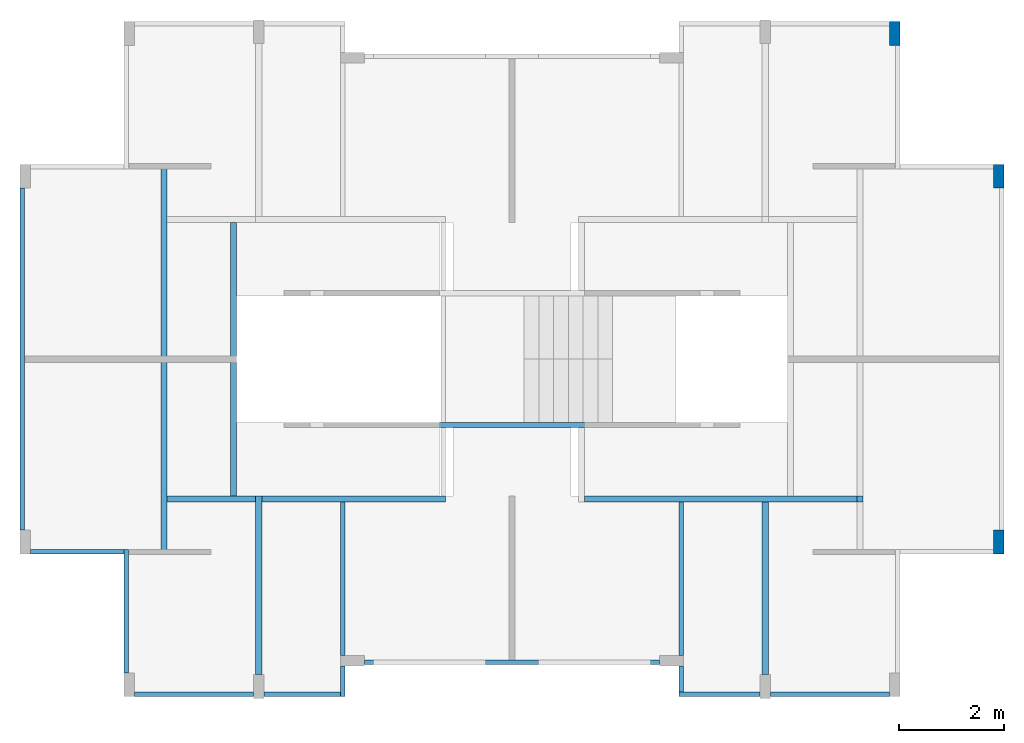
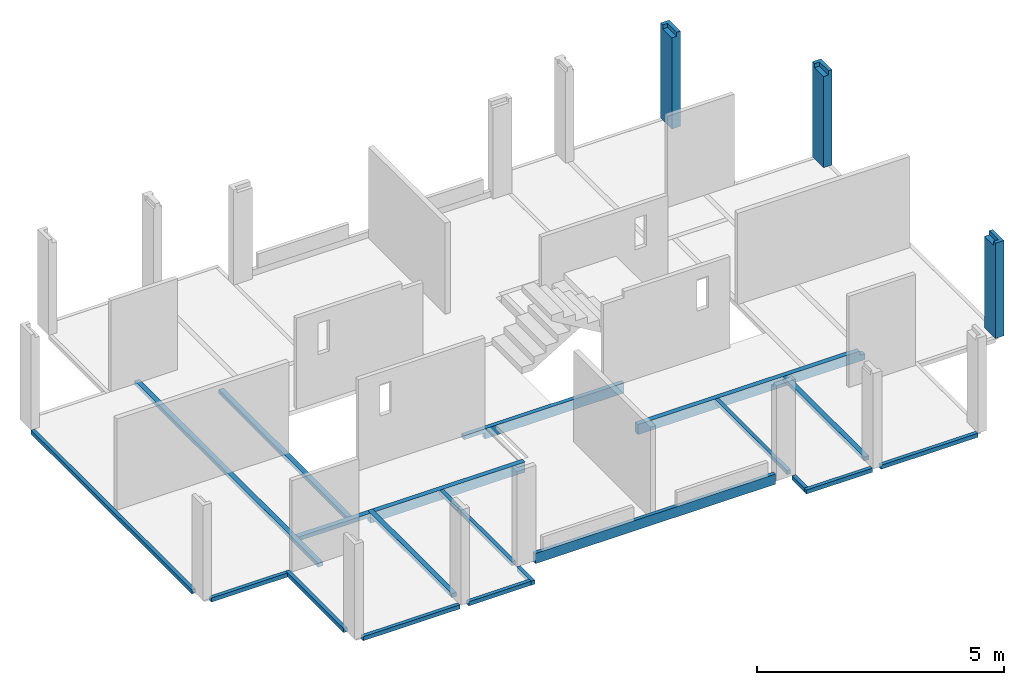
# One storey, part 1 of 6: 16 beams, 3 columns.
"""IFC4 building model written with IfcOpenShell, lengths in metres."""

from ifc_helpers import new_model, entity, si_unit, converted_unit, derived_unit, direction, frame, origin, place, context, subcontext, project, spatial, indexed_curve, outline, extrude, polygons, source, transform, mapped, material, type_object, type_shapes, element, save


model = new_model("IFC4")

# Units and contexts
model_context = context("Model", 3, precision=1e-05, world=origin(), true_north=direction((6.123031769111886e-17, 1.0)))
body_context = subcontext(model_context, "Body", "Model", "MODEL_VIEW")
ifc_project = project(units=[si_unit("LENGTHUNIT", "METRE"), si_unit("AREAUNIT", "SQUARE_METRE"), si_unit("VOLUMEUNIT", "CUBIC_METRE"), converted_unit("PLANEANGLEUNIT", "DEGREE", entity("IfcRatioMeasure", 0.017453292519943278), si_unit("PLANEANGLEUNIT", "RADIAN"), dimensions=[0, 0, 0, 0, 0, 0, 0]), si_unit("MASSUNIT", "GRAM", prefix="KILO"), derived_unit("MASSDENSITYUNIT", [(si_unit("MASSUNIT", "GRAM", prefix="KILO"), 1), (si_unit("LENGTHUNIT", "METRE"), -3)]), derived_unit("IONCONCENTRATIONUNIT", [(si_unit("MASSUNIT", "GRAM", prefix="KILO"), 1), (si_unit("LENGTHUNIT", "METRE"), -3)]), derived_unit("MOMENTOFINERTIAUNIT", [(si_unit("LENGTHUNIT", "METRE"), 4)]), si_unit("TIMEUNIT", "SECOND"), si_unit("FREQUENCYUNIT", "HERTZ"), si_unit("THERMODYNAMICTEMPERATUREUNIT", "DEGREE_CELSIUS"), derived_unit("THERMALTRANSMITTANCEUNIT", [(si_unit("MASSUNIT", "GRAM", prefix="KILO"), 1), (si_unit("THERMODYNAMICTEMPERATUREUNIT", "KELVIN"), -1), (si_unit("TIMEUNIT", "SECOND"), -3)]), derived_unit("THERMALCONDUCTANCEUNIT", [(si_unit("MASSUNIT", "GRAM", prefix="KILO"), 1), (si_unit("THERMODYNAMICTEMPERATUREUNIT", "KELVIN"), -1), (si_unit("TIMEUNIT", "SECOND"), -3), (si_unit("LENGTHUNIT", "METRE"), 1)]), derived_unit("VOLUMETRICFLOWRATEUNIT", [(si_unit("LENGTHUNIT", "METRE"), 3), (si_unit("TIMEUNIT", "SECOND"), -1)]), derived_unit("MASSFLOWRATEUNIT", [(si_unit("MASSUNIT", "GRAM", prefix="KILO"), 1), (si_unit("TIMEUNIT", "SECOND"), -1)]), derived_unit("ROTATIONALFREQUENCYUNIT", [(si_unit("TIMEUNIT", "SECOND"), -1)]), si_unit("ELECTRICCURRENTUNIT", "AMPERE"), si_unit("ELECTRICVOLTAGEUNIT", "VOLT"), si_unit("POWERUNIT", "WATT"), si_unit("FORCEUNIT", "NEWTON", prefix="KILO"), si_unit("ILLUMINANCEUNIT", "LUX"), si_unit("LUMINOUSFLUXUNIT", "LUMEN"), si_unit("LUMINOUSINTENSITYUNIT", "CANDELA"), derived_unit("USERDEFINED", [(si_unit("MASSUNIT", "GRAM", prefix="KILO"), -1), (si_unit("LENGTHUNIT", "METRE"), -2), (si_unit("TIMEUNIT", "SECOND"), 3), (si_unit("LUMINOUSFLUXUNIT", "LUMEN"), 1)]), derived_unit("USERDEFINED", [(si_unit("MASSUNIT", "GRAM", prefix="KILO"), 1), (si_unit("TIMEUNIT", "SECOND"), -3), (si_unit("LENGTHUNIT", "METRE"), 3), (si_unit("ELECTRICCURRENTUNIT", "AMPERE"), -2)]), derived_unit("SOUNDPOWERUNIT", [(si_unit("MASSUNIT", "GRAM", prefix="KILO"), 1), (si_unit("TIMEUNIT", "SECOND"), -3), (si_unit("LENGTHUNIT", "METRE"), 2)]), derived_unit("SOUNDPRESSUREUNIT", [(si_unit("MASSUNIT", "GRAM", prefix="KILO"), 1), (si_unit("LENGTHUNIT", "METRE"), -1), (si_unit("TIMEUNIT", "SECOND"), -2)]), derived_unit("LINEARVELOCITYUNIT", [(si_unit("LENGTHUNIT", "METRE"), 1), (si_unit("TIMEUNIT", "SECOND"), -1)]), si_unit("PRESSUREUNIT", "PASCAL"), derived_unit("USERDEFINED", [(si_unit("MASSUNIT", "GRAM", prefix="KILO"), 1), (si_unit("LENGTHUNIT", "METRE"), -2), (si_unit("TIMEUNIT", "SECOND"), -2)]), derived_unit("LINEARFORCEUNIT", [(si_unit("MASSUNIT", "GRAM", prefix="KILO"), 1), (si_unit("TIMEUNIT", "SECOND"), -2)]), derived_unit("PLANARFORCEUNIT", [(si_unit("MASSUNIT", "GRAM", prefix="KILO"), 1), (si_unit("LENGTHUNIT", "METRE"), -1), (si_unit("TIMEUNIT", "SECOND"), -2)]), derived_unit("SPECIFICHEATCAPACITYUNIT", [(si_unit("THERMODYNAMICTEMPERATUREUNIT", "KELVIN"), -1), (si_unit("LENGTHUNIT", "METRE"), 2), (si_unit("TIMEUNIT", "SECOND"), -2)]), derived_unit("HEATINGVALUEUNIT", [(si_unit("LENGTHUNIT", "METRE"), 2), (si_unit("TIMEUNIT", "SECOND"), -2)]), derived_unit("VAPORPERMEABILITYUNIT", [(si_unit("LENGTHUNIT", "METRE"), -1), (si_unit("TIMEUNIT", "SECOND"), 1)]), derived_unit("DYNAMICVISCOSITYUNIT", [(si_unit("MASSUNIT", "GRAM", prefix="KILO"), 1), (si_unit("TIMEUNIT", "SECOND"), -1), (si_unit("LENGTHUNIT", "METRE"), -1)]), derived_unit("THERMALEXPANSIONCOEFFICIENTUNIT", [(si_unit("THERMODYNAMICTEMPERATUREUNIT", "KELVIN"), -1)]), derived_unit("MODULUSOFELASTICITYUNIT", [(si_unit("MASSUNIT", "GRAM", prefix="KILO"), 1), (si_unit("LENGTHUNIT", "METRE"), -1), (si_unit("TIMEUNIT", "SECOND"), -2)]), derived_unit("ISOTHERMALMOISTURECAPACITYUNIT", [(si_unit("LENGTHUNIT", "METRE"), 3), (si_unit("MASSUNIT", "GRAM", prefix="KILO"), -1)]), derived_unit("MOISTUREDIFFUSIVITYUNIT", [(si_unit("TIMEUNIT", "SECOND"), -1), (si_unit("LENGTHUNIT", "METRE"), 2)])], contexts=[model_context])

# Site, building, storey
site_placement = place(None, origin())
site = spatial("IfcSite", under=ifc_project, at=site_placement, Name="Default", CompositionType="ELEMENT")
building_placement = place(site_placement, origin())
building = spatial("IfcBuilding", under=site, at=building_placement, Name="Las nubes", CompositionType="ELEMENT")
storey_placement = place(building_placement, frame((0.0, 0.0, 7.050000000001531)))
storey = spatial("IfcBuildingStorey", under=building, at=storey_placement, Name="PISO 4", CompositionType="ELEMENT", Elevation=7.050000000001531)

# Columns
ifc_material_1 = material(Name="Concrete, Cast-in-Place gray", Category="Materials")
column_type_1 = type_object("IfcColumnType", Name="M_Concrete-Rectangular-Column:300 x 450mm", PredefinedType="COLUMN", material=ifc_material_1)
shared_shape_1 = source(origin(), body_context, "Body", "Tessellation", [
    polygons([(-2.1657342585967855e-15, 5.414335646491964e-16, 0.0), (-2.1657342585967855e-15, 0.45000000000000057, 0.0), (0.19999999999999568, 0.45000000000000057, 0.0), (0.19999999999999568, 5.414335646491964e-16, 0.0), (-2.1657342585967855e-15, 5.414335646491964e-16, 2.250000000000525), (-2.1657342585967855e-15, 0.36499999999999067, 2.250000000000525), (-2.1657342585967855e-15, 0.36499999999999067, 2.3500000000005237), (-2.1657342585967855e-15, 0.45000000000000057, 2.3500000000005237), (0.19999999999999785, 5.414335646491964e-16, 2.250000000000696), (0.19999999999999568, 5.414335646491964e-16, 2.3500000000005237), (0.11499999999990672, 5.414335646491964e-16, 2.3500000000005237), (0.11499999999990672, 5.414335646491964e-16, 2.250000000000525), (0.19999999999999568, 0.45000000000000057, 2.3500000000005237), (0.11499999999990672, 0.36499999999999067, 2.3500000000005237), (0.11499999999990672, 0.36499999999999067, 2.250000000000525)], [[[1, 2, 3, 4]], [[2, 1, 5, 6, 7, 8]], [[1, 4, 9, 10, 11, 12, 5]], [[4, 3, 13, 10, 9]], [[3, 2, 8, 13]], [[10, 13, 8, 7, 14, 11]], [[12, 15, 6, 5]], [[14, 15, 12, 11]], [[15, 14, 7, 6]]], closed=True),
])
type_shapes(column_type_1, [shared_shape_1])
column_1_placement = place(storey_placement, frame((18.472500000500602, -3.175000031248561, 0.0)))
element("IfcColumn", 1, at=column_1_placement, inside=storey, type_object=column_type_1, material=ifc_material_1, Name="M_Concrete-Rectangular-Column:300 x 450mm", ObjectType="M_Concrete-Rectangular-Column:300 x 450mm", PredefinedType="COLUMN", context=body_context, shape_type="MappedRepresentation", body=[
    mapped(shared_shape_1, transform((0.0, 0.0, 0.0), scale=1.0)),
])
column_type_2 = type_object("IfcColumnType", Name="M_Concrete-Rectangular-Column:300 x 450mm", PredefinedType="COLUMN", material=ifc_material_1)
shared_shape_2 = source(origin(), body_context, "Body", "Tessellation", [
    polygons([(0.0, 0.0, 0.0), (0.0, 0.45, 0.0), (0.2, 0.45, 0.0), (0.2, 0.0, 0.0), (0.0, 0.0, 2.250000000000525), (0.0, 0.3649999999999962, 2.250000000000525), (0.0, 0.36499999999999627, 2.3500000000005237), (0.0, 0.45, 2.3500000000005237), (0.2, 0.0, 2.250000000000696), (0.2, 0.0, 2.3500000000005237), (0.11499999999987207, 0.0, 2.3500000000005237), (0.11499999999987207, 0.0, 2.250000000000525), (0.2, 0.45, 2.3500000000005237), (0.11499999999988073, 0.3649999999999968, 2.3500000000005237), (0.11499999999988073, 0.3649999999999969, 2.250000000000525)], [[[1, 2, 3, 4]], [[2, 1, 5, 6, 7, 8]], [[1, 4, 9, 10, 11, 12, 5]], [[4, 3, 13, 10, 9]], [[3, 2, 8, 13]], [[10, 13, 8, 7, 14, 11]], [[15, 6, 5, 12]], [[15, 14, 7, 6]], [[14, 15, 12, 11]]], closed=True),
])
type_shapes(column_type_2, [shared_shape_2])
column_2_placement = place(storey_placement, frame((16.497500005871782, -0.46000002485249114, 0.0)))
element("IfcColumn", 2, at=column_2_placement, inside=storey, type_object=column_type_2, material=ifc_material_1, Name="M_Concrete-Rectangular-Column:300 x 450mm", ObjectType="M_Concrete-Rectangular-Column:300 x 450mm", PredefinedType="COLUMN", context=body_context, shape_type="MappedRepresentation", body=[
    mapped(shared_shape_2, transform((0.0, 0.0, 0.0), scale=1.0)),
])
column_type_3 = type_object("IfcColumnType", Name="M_Concrete-Rectangular-Column:300 x 450mm", PredefinedType="COLUMN", material=ifc_material_1)
shared_shape_3 = source(origin(), body_context, "Body", "Tessellation", [
    polygons([(2.1657342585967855e-15, 2.1657342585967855e-15, 0.0), (6.497202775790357e-15, 0.4500000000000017, 0.0), (0.20000000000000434, 0.45000000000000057, 0.0), (0.20000000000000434, 0.0, 0.0), (2.1657342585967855e-15, 2.1657342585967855e-15, 2.3500000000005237), (2.1657342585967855e-15, 0.08500000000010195, 2.3500000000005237), (2.1657342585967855e-15, 0.08500000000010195, 2.250000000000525), (6.497202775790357e-15, 0.4500000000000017, 2.250000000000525), (0.11499999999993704, 0.4500000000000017, 2.250000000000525), (0.11499999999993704, 0.4500000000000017, 2.3500000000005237), (0.2000000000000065, 0.4499999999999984, 2.3500000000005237), (0.2000000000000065, 0.45000000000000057, 2.250000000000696), (0.20000000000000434, 0.0, 2.3500000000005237), (0.11499999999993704, 0.08500000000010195, 2.3500000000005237), (0.11499999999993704, 0.08500000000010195, 2.250000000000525)], [[[1, 2, 3, 4]], [[2, 1, 5, 6, 7, 8]], [[3, 2, 8, 9, 10, 11, 12]], [[4, 3, 12, 11, 13]], [[1, 4, 13, 5]], [[13, 11, 10, 14, 6, 5]], [[7, 15, 9, 8]], [[14, 15, 7, 6]], [[15, 14, 10, 9]]], closed=True),
])
type_shapes(column_type_3, [shared_shape_3])
column_3_placement = place(storey_placement, frame((18.472500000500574, -10.125000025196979, 0.0)))
element("IfcColumn", 3, at=column_3_placement, inside=storey, type_object=column_type_3, material=ifc_material_1, Name="M_Concrete-Rectangular-Column:300 x 450mm", ObjectType="M_Concrete-Rectangular-Column:300 x 450mm", PredefinedType="COLUMN", context=body_context, shape_type="MappedRepresentation", body=[
    mapped(shared_shape_3, transform((0.0, 0.0, 0.0), scale=1.0)),
])

# Beams
ifc_material_2 = material(Name="Concrete, Cast In Situ", Category="Materials")
beam_type_1 = type_object("IfcBeamType", Name="M_Concrete-Rectangular Beam:(0.085x0.25)", PredefinedType="BEAM", material=ifc_material_2)
shared_shape_4 = source(origin(), body_context, "Body", "SweptSolid", [
    extrude(outline(indexed_curve([(-0.12500000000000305, -0.04249999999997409), (0.12499999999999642, -0.04250000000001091), (0.12500000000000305, 0.04249999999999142), (-0.12499999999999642, 0.042500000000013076), (-0.12500000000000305, -0.04249999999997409)], self_intersect=False)), frame((6.517499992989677, -12.18250002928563, 7.075000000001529), z_axis=(1.0, 0.0, 0.0), x_axis=(0.0, 0.0, -1.0)), (0.0, 0.0, 1.0), 5.6100000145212),
])
type_shapes(beam_type_1, [shared_shape_4])
beam_1_placement = place(storey_placement, frame((0.0, 0.0, -7.050000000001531)))
element("IfcBeam", 4, at=beam_1_placement, inside=storey, type_object=beam_type_1, material=ifc_material_2, Name="M_Concrete-Rectangular Beam:(0.085x0.25)", ObjectType="M_Concrete-Rectangular Beam:(0.085x0.25)", PredefinedType="BEAM", context=body_context, shape_type="MappedRepresentation", body=[
    mapped(shared_shape_4, transform((0.0, 0.0, 0.0), scale=1.0)),
])
ifc_material_3 = material(Name="Concrete - Cast-in-Place Concrete - 35 MPa", Category="Materials")
beam_type_2 = type_object("IfcBeamType", Name="M_Concrete-Rectangular Beam:(0.10x0.25)", PredefinedType="BEAM", material=ifc_material_3)
shared_shape_5 = source(origin(), body_context, "Body", "SweptSolid", [
    extrude(outline(indexed_curve([(-1.7597499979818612, -0.10250000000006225), (-1.269749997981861, -0.10250000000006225), (-1.2647499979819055, -0.10250000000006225), (-1.234749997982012, -0.10250000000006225), (-1.1497499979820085, -0.10250000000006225), (-1.0097500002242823, -0.10250000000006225), (1.2302499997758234, -0.10250000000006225), (1.3702499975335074, -0.10250000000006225), (1.4852499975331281, -0.10250000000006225), (1.9802499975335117, -0.10250000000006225), (1.9802499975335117, -0.002499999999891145), (1.9802499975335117, 0.14749999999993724), (1.4902499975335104, 0.14749999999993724), (1.4852499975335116, 0.14749999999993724), (1.3702499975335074, 0.14749999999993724), (-1.1497499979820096, 0.14749999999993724), (-1.234749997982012, 0.14749999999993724), (-1.269749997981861, 0.14749999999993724), (-1.269749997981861, -0.0024999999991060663), (-1.7597499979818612, -0.002499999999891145), (-1.7597499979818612, -0.10250000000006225)], self_intersect=False)), frame((9.212250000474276, -7.725000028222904, 6.94750000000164), z_axis=(0.0, 1.0, 0.0), x_axis=(1.0, 0.0, 0.0)), (0.0, 0.0, 1.0), 0.10000000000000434),
])
type_shapes(beam_type_2, [shared_shape_5])
beam_2_placement = place(storey_placement, frame((0.0, 0.0, -7.050000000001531)))
element("IfcBeam", 5, at=beam_2_placement, inside=storey, type_object=beam_type_2, material=ifc_material_3, Name="M_Concrete-Rectangular Beam:(0.10x0.25)", ObjectType="M_Concrete-Rectangular Beam:(0.10x0.25)", PredefinedType="BEAM", context=body_context, shape_type="MappedRepresentation", body=[
    mapped(shared_shape_5, transform((0.0, 0.0, 0.0), scale=1.0)),
])
beam_type_3 = type_object("IfcBeamType", Name="M_Concrete-Rectangular Beam:(0.085x0.10)", PredefinedType="BEAM", material=ifc_material_2)
shared_shape_6 = source(origin(), body_context, "Body", "SweptSolid", [
    extrude(outline(indexed_curve([(-0.04250000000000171, -0.04999999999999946), (0.04250000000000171, -0.04999999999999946), (0.04250000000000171, 0.050000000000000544), (-0.04250000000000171, 0.050000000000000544), (-0.04250000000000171, -0.04999999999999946)], self_intersect=False)), frame((1.9899999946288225, -12.390000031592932, 7.0), z_axis=(0.0, 1.0, 0.0), x_axis=(-1.0, 0.0, 0.0)), (0.0, 0.0, 1.0), 2.3500051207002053),
])
type_shapes(beam_type_3, [shared_shape_6])
beam_3_placement = place(storey_placement, frame((0.0, 0.0, -7.050000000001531)))
element("IfcBeam", 6, at=beam_3_placement, inside=storey, type_object=beam_type_3, material=ifc_material_2, Name="M_Concrete-Rectangular Beam:(0.085x0.10)", ObjectType="M_Concrete-Rectangular Beam:(0.085x0.10)", PredefinedType="BEAM", context=body_context, shape_type="MappedRepresentation", body=[
    mapped(shared_shape_6, transform((0.0, 0.0, 0.0), scale=1.0)),
])
beam_type_4 = type_object("IfcBeamType", Name="M_Concrete-Rectangular Beam:(0.085x0.10)", PredefinedType="BEAM", material=ifc_material_2)
shared_shape_7 = source(origin(), body_context, "Body", "SweptSolid", [
    extrude(outline(indexed_curve([(-0.05000000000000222, -0.04249999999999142), (0.04999999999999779, -0.042500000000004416), (0.050000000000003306, 0.04249999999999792), (-0.04999999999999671, 0.042500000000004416), (-0.05000000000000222, -0.04249999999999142)], self_intersect=False)), frame((1.9474999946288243, -10.082494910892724, 7.0), z_axis=(-1.0, 0.0, 0.0), x_axis=(0.0, 0.0, -1.0)), (0.0, 0.0, 1.0), 1.7749999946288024),
])
type_shapes(beam_type_4, [shared_shape_7])
beam_4_placement = place(storey_placement, frame((0.0, 0.0, -7.050000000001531)))
element("IfcBeam", 7, at=beam_4_placement, inside=storey, type_object=beam_type_4, material=ifc_material_2, Name="M_Concrete-Rectangular Beam:(0.085x0.10)", ObjectType="M_Concrete-Rectangular Beam:(0.085x0.10)", PredefinedType="BEAM", context=body_context, shape_type="MappedRepresentation", body=[
    mapped(shared_shape_7, transform((0.0, 0.0, 0.0), scale=1.0)),
])
beam_type_5 = type_object("IfcBeamType", Name="M_Concrete-Rectangular Beam:(0.085x0.10)", PredefinedType="BEAM", material=ifc_material_2)
shared_shape_8 = source(origin(), body_context, "Body", "SweptSolid", [
    extrude(outline(indexed_curve([(-0.04250000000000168, -0.04999999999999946), (0.04250000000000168, -0.04999999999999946), (0.0425000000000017, 0.050000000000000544), (-0.04250000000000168, 0.050000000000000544), (-0.04250000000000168, -0.04999999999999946)], self_intersect=False)), frame((0.01500000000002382, -9.674994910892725, 7.0), z_axis=(0.0, 1.0, 0.0), x_axis=(-1.0, 0.0, 0.0)), (0.0, 0.0, 1.0), 6.499994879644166),
])
type_shapes(beam_type_5, [shared_shape_8])
beam_5_placement = place(storey_placement, frame((0.0, 0.0, -7.050000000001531)))
element("IfcBeam", 8, at=beam_5_placement, inside=storey, type_object=beam_type_5, material=ifc_material_2, Name="M_Concrete-Rectangular Beam:(0.085x0.10)", ObjectType="M_Concrete-Rectangular Beam:(0.085x0.10)", PredefinedType="BEAM", context=body_context, shape_type="MappedRepresentation", body=[
    mapped(shared_shape_8, transform((0.0, 0.0, 0.0), scale=1.0)),
])
beam_type_6 = type_object("IfcBeamType", Name="M_Concrete-Rectangular Beam:(0.085x0.10)", PredefinedType="BEAM", material=ifc_material_2)
shared_shape_9 = source(origin(), body_context, "Body", "SweptSolid", [
    extrude(outline(indexed_curve([(-0.05000000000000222, -0.04249999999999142), (0.04999999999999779, -0.042500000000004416), (0.050000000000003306, 0.04249999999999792), (-0.04999999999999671, 0.042500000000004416), (-0.05000000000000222, -0.04249999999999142)], self_intersect=False)), frame((14.235000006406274, -12.797498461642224, 7.0), z_axis=(1.0, 0.0, 0.0), x_axis=(0.0, 0.0, -1.0)), (0.0, 0.0, 1.0), 2.2624999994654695),
    extrude(outline(indexed_curve([(-0.05000000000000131, -0.04249999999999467), (0.0499999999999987, -0.042500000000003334), (0.05000000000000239, 0.042499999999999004), (-0.049999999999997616, 0.042500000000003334), (-0.05000000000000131, -0.04249999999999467)], self_intersect=False)), frame((12.49250000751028, -12.797498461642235, 7.0), z_axis=(1.0, 0.0, 0.0), x_axis=(0.0, 0.0, -1.0)), (0.0, 0.0, 1.0), 1.5424999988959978),
])
type_shapes(beam_type_6, [shared_shape_9])
beam_6_placement = place(storey_placement, frame((0.0, 0.0, -7.050000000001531)))
element("IfcBeam", 9, at=beam_6_placement, inside=storey, type_object=beam_type_6, material=ifc_material_2, Name="M_Concrete-Rectangular Beam:(0.085x0.10)", ObjectType="M_Concrete-Rectangular Beam:(0.085x0.10)", PredefinedType="BEAM", context=body_context, shape_type="MappedRepresentation", body=[
    mapped(shared_shape_9, transform((0.0, 0.0, 0.0), scale=1.0)),
])
beam_type_7 = type_object("IfcBeamType", Name="M_Concrete-Rectangular Beam:(0.115x0.25)", PredefinedType="BEAM", material=ifc_material_2)
shared_shape_10 = source(origin(), body_context, "Body", "SweptSolid", [
    extrude(outline(indexed_curve([(-0.16111111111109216, -1.5972222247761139), (-0.011111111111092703, -1.5972222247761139), (-0.011111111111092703, -1.4822222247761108), (0.08888888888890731, -1.4822222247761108), (0.08888888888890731, 0.01777777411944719), (0.08888888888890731, 0.1027777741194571), (0.08888888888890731, 2.012777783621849), (-0.011111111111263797, 2.012777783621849), (-0.16111111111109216, 2.012777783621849), (-0.16111111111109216, -1.5972222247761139)], self_intersect=False)), frame((6.049722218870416, -9.14000012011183, 6.961111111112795), z_axis=(0.0, 1.0, 0.0), x_axis=(0.0, 0.0, 1.0)), (0.0, 0.0, 1.0), 0.1150000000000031),
])
type_shapes(beam_type_7, [shared_shape_10])
beam_7_placement = place(storey_placement, frame((0.0, 0.0, -7.050000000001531)))
element("IfcBeam", 10, at=beam_7_placement, inside=storey, type_object=beam_type_7, material=ifc_material_2, Name="M_Concrete-Rectangular Beam:(0.115x0.25)", ObjectType="M_Concrete-Rectangular Beam:(0.115x0.25)", PredefinedType="BEAM", context=body_context, shape_type="MappedRepresentation", body=[
    mapped(shared_shape_10, transform((0.0, 0.0, 0.0), scale=1.0)),
])
beam_type_8 = type_object("IfcBeamType", Name="M_Concrete-Rectangular Beam:(0.115x0.25)", PredefinedType="BEAM", material=ifc_material_2)
shared_shape_11 = source(origin(), body_context, "Body", "SweptSolid", [
    extrude(outline(indexed_curve([(-2.1449993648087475, -0.18000000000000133), (3.149999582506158, -0.18000000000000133), (3.149999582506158, 0.06999999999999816), (1.35499957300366, 0.06999999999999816), (1.2699995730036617, 0.06999999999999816), (-0.2300004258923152, 0.06999999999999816), (-0.3450004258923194, 0.06999999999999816), (-2.0299993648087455, 0.06999999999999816), (-2.0299993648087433, -0.030000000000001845), (-2.1449993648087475, -0.030000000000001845), (-2.1449993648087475, -0.18000000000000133)], self_intersect=False)), frame((13.847499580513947, -9.140000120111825, 6.980000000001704), z_axis=(0.0, 1.0, 0.0), x_axis=(-1.0, 0.0, 0.0)), (0.0, 0.0, 1.0), 0.1150000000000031),
])
type_shapes(beam_type_8, [shared_shape_11])
beam_8_placement = place(storey_placement, frame((0.0, 0.0, -7.050000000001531)))
element("IfcBeam", 11, at=beam_8_placement, inside=storey, type_object=beam_type_8, material=ifc_material_2, Name="M_Concrete-Rectangular Beam:(0.115x0.25)", ObjectType="M_Concrete-Rectangular Beam:(0.115x0.25)", PredefinedType="BEAM", context=body_context, shape_type="MappedRepresentation", body=[
    mapped(shared_shape_11, transform((0.0, 0.0, 0.0), scale=1.0)),
])
beam_type_9 = type_object("IfcBeamType", Name="M_Concrete-Rectangular Beam:(0.115x0.10)", PredefinedType="BEAM", material=ifc_material_2)
shared_shape_12 = source(origin(), body_context, "Body", "SweptSolid", [
    extrude(outline(indexed_curve([(-0.05750000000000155, -0.04999999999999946), (0.05750000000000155, -0.04999999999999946), (0.05750000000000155, 0.050000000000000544), (-0.05750000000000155, 0.050000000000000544), (-0.05750000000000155, -0.04999999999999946)], self_intersect=False)), frame((2.710001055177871, -10.140000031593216, 7.0), z_axis=(0.0, 1.0, 0.0), x_axis=(-1.0, 0.0, 0.0)), (0.0, 0.0, 1.0), 7.430000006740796),
])
type_shapes(beam_type_9, [shared_shape_12])
beam_9_placement = place(storey_placement, frame((0.0, 0.0, -7.050000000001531)))
element("IfcBeam", 12, at=beam_9_placement, inside=storey, type_object=beam_type_9, material=ifc_material_2, Name="M_Concrete-Rectangular Beam:(0.115x0.10)", ObjectType="M_Concrete-Rectangular Beam:(0.115x0.10)", PredefinedType="BEAM", context=body_context, shape_type="MappedRepresentation", body=[
    mapped(shared_shape_12, transform((0.0, 0.0, 0.0), scale=1.0)),
])
beam_type_10 = type_object("IfcBeamType", Name="M_Concrete-Rectangular Beam:(0.115x0.10)", PredefinedType="BEAM", material=ifc_material_2)
shared_shape_13 = source(origin(), body_context, "Body", "SweptSolid", [
    extrude(outline(indexed_curve([(-0.05750000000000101, -0.050000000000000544), (0.05750000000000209, -0.04999999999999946), (0.05750000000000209, 0.04999999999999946), (-0.05750000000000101, 0.04999999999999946), (-0.05750000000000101, -0.050000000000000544)], self_intersect=False)), frame((4.509999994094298, -12.42000003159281, 7.0), z_axis=(0.0, 1.0, 0.0), x_axis=(-1.0, 0.0, 0.0)), (0.0, 0.0, 1.0), 3.3950000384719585),
])
type_shapes(beam_type_10, [shared_shape_13])
beam_10_placement = place(storey_placement, frame((0.0, 0.0, -7.050000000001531)))
element("IfcBeam", 13, at=beam_10_placement, inside=storey, type_object=beam_type_10, material=ifc_material_2, Name="M_Concrete-Rectangular Beam:(0.115x0.10)", ObjectType="M_Concrete-Rectangular Beam:(0.115x0.10)", PredefinedType="BEAM", context=body_context, shape_type="MappedRepresentation", body=[
    mapped(shared_shape_13, transform((0.0, 0.0, 0.0), scale=1.0)),
])
beam_type_11 = type_object("IfcBeamType", Name="M_Concrete-Rectangular Beam:(0.115x0.10)", PredefinedType="BEAM", material=ifc_material_2)
shared_shape_14 = source(origin(), body_context, "Body", "SweptSolid", [
    extrude(outline(indexed_curve([(-0.05750000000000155, -0.04999999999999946), (0.05750000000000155, -0.04999999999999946), (0.05750000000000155, 0.050000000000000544), (-0.05750000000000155, 0.050000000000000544), (-0.05750000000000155, -0.04999999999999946)], self_intersect=False)), frame((4.029999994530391, -9.025000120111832, 7.0), z_axis=(0.0, 1.0, 0.0), x_axis=(-1.0, 0.0, 0.0)), (0.0, 0.0, 1.0), 5.200000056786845),
])
type_shapes(beam_type_11, [shared_shape_14])
beam_11_placement = place(storey_placement, frame((0.0, 0.0, -7.050000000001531)))
element("IfcBeam", 14, at=beam_11_placement, inside=storey, type_object=beam_type_11, material=ifc_material_2, Name="M_Concrete-Rectangular Beam:(0.115x0.10)", ObjectType="M_Concrete-Rectangular Beam:(0.115x0.10)", PredefinedType="BEAM", context=body_context, shape_type="MappedRepresentation", body=[
    mapped(shared_shape_14, transform((0.0, 0.0, 0.0), scale=1.0)),
])
beam_type_12 = type_object("IfcBeamType", Name="M_Concrete-Rectangular Beam:(0.115x0.10)", PredefinedType="BEAM", material=ifc_material_2)
shared_shape_15 = source(origin(), body_context, "Body", "SweptSolid", [
    extrude(outline(indexed_curve([(-0.05000000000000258, -0.057499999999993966), (0.049999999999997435, -0.05750000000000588), (0.05000000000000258, 0.0574999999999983), (-0.049999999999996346, 0.057500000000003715), (-0.05000000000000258, -0.057499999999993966)], self_intersect=False)), frame((4.4524999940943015, -9.082499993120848, 7.0), z_axis=(-1.0, 0.0, 0.0), x_axis=(0.0, 0.0, -1.0)), (0.0, 0.0, 1.0), 1.6849989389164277),
])
type_shapes(beam_type_12, [shared_shape_15])
beam_12_placement = place(storey_placement, frame((0.0, 0.0, -7.050000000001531)))
element("IfcBeam", 15, at=beam_12_placement, inside=storey, type_object=beam_type_12, material=ifc_material_2, Name="M_Concrete-Rectangular Beam:(0.115x0.10)", ObjectType="M_Concrete-Rectangular Beam:(0.115x0.10)", PredefinedType="BEAM", context=body_context, shape_type="MappedRepresentation", body=[
    mapped(shared_shape_15, transform((0.0, 0.0, 0.0), scale=1.0)),
])
beam_type_13 = type_object("IfcBeamType", Name="M_Concrete-Rectangular Beam:(0.085x0.10)", PredefinedType="BEAM", material=ifc_material_2)
shared_shape_16 = source(origin(), body_context, "Body", "SweptSolid", [
    extrude(outline(indexed_curve([(-0.04250000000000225, -0.04999999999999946), (0.04250000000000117, -0.04999999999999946), (0.04250000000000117, 0.050000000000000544), (-0.04250000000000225, 0.050000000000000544), (-0.04250000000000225, -0.04999999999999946)], self_intersect=False)), frame((6.1099999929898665, -12.055000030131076, 7.0), z_axis=(0.0, 1.0, 0.0), x_axis=(-1.0, 0.0, 0.0)), (0.0, 0.0, 1.0), 2.9149999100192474),
    extrude(outline(indexed_curve([(-0.04250000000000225, -0.04999999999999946), (0.04250000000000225, -0.04999999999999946), (0.04250000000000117, 0.050000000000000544), (-0.04250000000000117, 0.050000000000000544), (-0.04250000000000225, -0.04999999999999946)], self_intersect=False)), frame((6.109999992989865, -12.840000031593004, 7.0), z_axis=(0.0, 1.0, 0.0), x_axis=(-1.0, 0.0, 0.0)), (0.0, 0.0, 1.0), 0.585000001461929),
])
type_shapes(beam_type_13, [shared_shape_16])
beam_13_placement = place(storey_placement, frame((0.0, 0.0, -7.050000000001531)))
element("IfcBeam", 16, at=beam_13_placement, inside=storey, type_object=beam_type_13, material=ifc_material_2, Name="M_Concrete-Rectangular Beam:(0.085x0.10)", ObjectType="M_Concrete-Rectangular Beam:(0.085x0.10)", PredefinedType="BEAM", context=body_context, shape_type="MappedRepresentation", body=[
    mapped(shared_shape_16, transform((0.0, 0.0, 0.0), scale=1.0)),
])
beam_type_14 = type_object("IfcBeamType", Name="M_Concrete-Rectangular Beam:(0.085x0.10)", PredefinedType="BEAM", material=ifc_material_2)
shared_shape_17 = source(origin(), body_context, "Body", "SweptSolid", [
    extrude(outline(indexed_curve([(-0.04250000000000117, -0.050000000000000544), (0.042499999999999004, -0.04999999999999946), (0.04250000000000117, 0.04999999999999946), (-0.042500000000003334, 0.04999999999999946), (-0.04250000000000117, -0.050000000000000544)], self_intersect=False)), frame((12.535000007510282, -12.755000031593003, 7.0), z_axis=(0.0, 1.0, 0.0), x_axis=(-1.0, 0.0, 0.0)), (0.0, 0.0, 1.0), 0.5000000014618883),
    extrude(outline(indexed_curve([(-0.042499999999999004, -0.050000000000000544), (0.042500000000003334, -0.04999999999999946), (0.042500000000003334, 0.04999999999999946), (-0.042499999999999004, 0.04999999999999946), (-0.042499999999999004, -0.050000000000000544)], self_intersect=False)), frame((12.535000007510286, -12.055000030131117, 7.0), z_axis=(0.0, 1.0, 0.0), x_axis=(-1.0, 0.0, 0.0)), (0.0, 0.0, 1.0), 2.9149999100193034),
])
type_shapes(beam_type_14, [shared_shape_17])
beam_14_placement = place(storey_placement, frame((0.0, 0.0, -7.050000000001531)))
element("IfcBeam", 17, at=beam_14_placement, inside=storey, type_object=beam_type_14, material=ifc_material_2, Name="M_Concrete-Rectangular Beam:(0.085x0.10)", ObjectType="M_Concrete-Rectangular Beam:(0.085x0.10)", PredefinedType="BEAM", context=body_context, shape_type="MappedRepresentation", body=[
    mapped(shared_shape_17, transform((0.0, 0.0, 0.0), scale=1.0)),
])
beam_type_15 = type_object("IfcBeamType", Name="M_Concrete-Rectangular Beam:(0.115x0.10)", PredefinedType="BEAM", material=ifc_material_2)
shared_shape_18 = source(origin(), body_context, "Body", "SweptSolid", [
    extrude(outline(indexed_curve([(-0.057500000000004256, -0.04999999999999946), (0.05750000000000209, -0.04999999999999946), (0.05750000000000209, 0.050000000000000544), (-0.05750000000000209, 0.050000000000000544), (-0.057500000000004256, -0.04999999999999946)], self_intersect=False)), frame((14.135000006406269, -12.420000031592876, 7.0), z_axis=(0.0, 1.0, 0.0), x_axis=(-1.0, 0.0, 0.0)), (0.0, 0.0, 1.0), 3.2800000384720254),
])
type_shapes(beam_type_15, [shared_shape_18])
beam_15_placement = place(storey_placement, frame((0.0, 0.0, -7.050000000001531)))
element("IfcBeam", 18, at=beam_15_placement, inside=storey, type_object=beam_type_15, material=ifc_material_2, Name="M_Concrete-Rectangular Beam:(0.115x0.10)", ObjectType="M_Concrete-Rectangular Beam:(0.115x0.10)", PredefinedType="BEAM", context=body_context, shape_type="MappedRepresentation", body=[
    mapped(shared_shape_18, transform((0.0, 0.0, 0.0), scale=1.0)),
])
beam_type_16 = type_object("IfcBeamType", Name="M_Concrete-Rectangular Beam:(0.085x0.10)", PredefinedType="BEAM", material=ifc_material_2)
shared_shape_19 = source(origin(), body_context, "Body", "SweptSolid", [
    extrude(outline(indexed_curve([(-0.05000000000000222, -0.04249999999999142), (0.04999999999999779, -0.042500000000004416), (0.050000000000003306, 0.04249999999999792), (-0.04999999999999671, 0.042500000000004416), (-0.05000000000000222, -0.04249999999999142)], self_intersect=False)), frame((4.4099999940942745, -12.797500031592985, 7.0), z_axis=(-1.0, 0.0, 0.0), x_axis=(0.0, 0.0, -1.0)), (0.0, 0.0, 1.0), 2.262499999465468),
    extrude(outline(indexed_curve([(-0.05000000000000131, -0.04249999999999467), (0.0499999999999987, -0.042500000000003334), (0.05000000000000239, 0.042499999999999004), (-0.049999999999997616, 0.042500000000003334), (-0.05000000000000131, -0.04249999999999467)], self_intersect=False)), frame((6.06749999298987, -12.797500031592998, 7.0), z_axis=(-1.0, 0.0, 0.0), x_axis=(0.0, 0.0, -1.0)), (0.0, 0.0, 1.0), 1.4574999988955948),
])
type_shapes(beam_type_16, [shared_shape_19])
beam_16_placement = place(storey_placement, frame((0.0, 0.0, -7.050000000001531)))
element("IfcBeam", 19, at=beam_16_placement, inside=storey, type_object=beam_type_16, material=ifc_material_2, Name="M_Concrete-Rectangular Beam:(0.085x0.10)", ObjectType="M_Concrete-Rectangular Beam:(0.085x0.10)", PredefinedType="BEAM", context=body_context, shape_type="MappedRepresentation", body=[
    mapped(shared_shape_19, transform((0.0, 0.0, 0.0), scale=1.0)),
])

save(model, "model.ifc")
